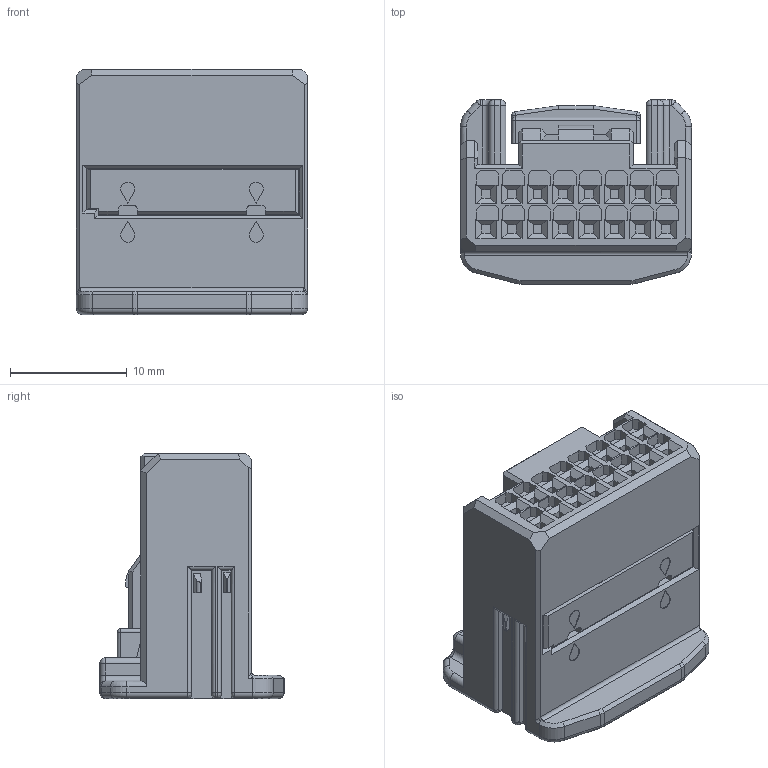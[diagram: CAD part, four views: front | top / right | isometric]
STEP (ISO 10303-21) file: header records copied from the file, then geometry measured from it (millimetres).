
FILE_DESCRIPTION((''),'2;1');
FILE_NAME('C-1717109-1','2023-09-11T11:12:01',('workeradm'),('TE Connectivity Ltd.'),'CREO PARAMETRIC BY PTC INC, 2021072','CREO PARAMETRIC BY PTC INC, 2021072','');
FILE_SCHEMA(('AUTOMOTIVE_DESIGN { 1 0 10303 214 1 1 1 1 }'));
Length unit declared in the file: millimetre
Products named in the file (1): C-1717109-1
Bounding box: 19.8 x 15.8 x 21 mm (x, y, z)
Volume: 3729.1 mm3; surface area: 2439.3 mm2
Topology: 1 solids, 1 shells, 886 faces, 2297 edges, 1459 vertices
Faces by surface type: plane 677, cylinder 163, sphere 22, torus 10, bspline 10, cone 4
Entity records: 27141 total; most frequent: CARTESIAN_POINT 5208, ORIENTED_EDGE 4594, DIRECTION 4335, EDGE_CURVE 2297, VECTOR 1951, LINE 1951, VERTEX_POINT 1459, AXIS2_PLACEMENT_3D 1192
